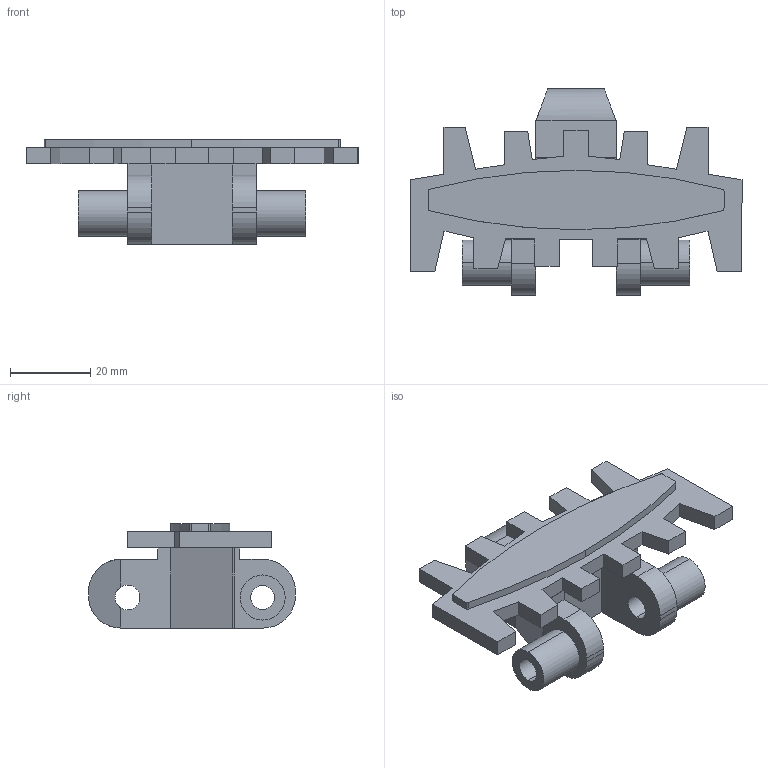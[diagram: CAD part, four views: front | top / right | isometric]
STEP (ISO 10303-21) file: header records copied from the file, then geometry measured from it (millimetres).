
FILE_DESCRIPTION (( 'STEP AP214' ), '1' );
FILE_NAME ('FMFT 5.step', '2017-04-04T13:34:42', ( '' ), ( '' ), 'SwSTEP 2.0', 'SolidWorks 2015', '' );
FILE_SCHEMA (( 'AUTOMOTIVE_DESIGN' ));
Length unit declared in the file: millimetre
Products named in the file (1): FMFT 5
Bounding box: 83 x 51.7 x 26 mm (x, y, z)
Volume: 26242.6 mm3; surface area: 12010.4 mm2
Topology: 1 solids, 1 shells, 105 faces, 294 edges, 192 vertices
Faces by surface type: plane 79, cylinder 26
Entity records: 3509 total; most frequent: CARTESIAN_POINT 610, ORIENTED_EDGE 588, DIRECTION 550, EDGE_CURVE 294, LINE 238, VECTOR 238, VERTEX_POINT 192, AXIS2_PLACEMENT_3D 156
